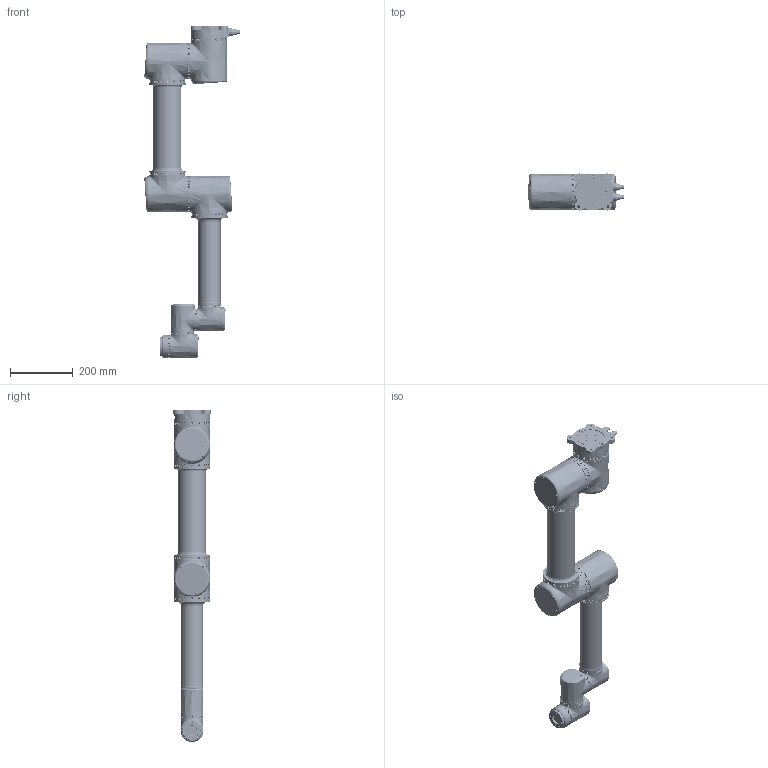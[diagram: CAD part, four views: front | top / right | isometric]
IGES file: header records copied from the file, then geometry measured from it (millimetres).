
Start section: SolidWorks IGES file using analytic representation for surfaces
Global section: file name: E:\5kg\eRobot5_MA\eRobot5_MA.IGS; native system: SolidWorks 2016; preprocessor: SolidWorks 2016; author: HIAPAD; date: 220602.113343; units: millimetre
Bounding box: 304.47 x 118.39 x 1060.8 mm (x, y, z)
Surface area: 1651909 mm2 (no closed solid volume)
Topology: 0 solids, 0 shells, 28558 faces, 302700 edges, 300509 vertices
Faces by surface type: bspline 18548, revolution 10010
